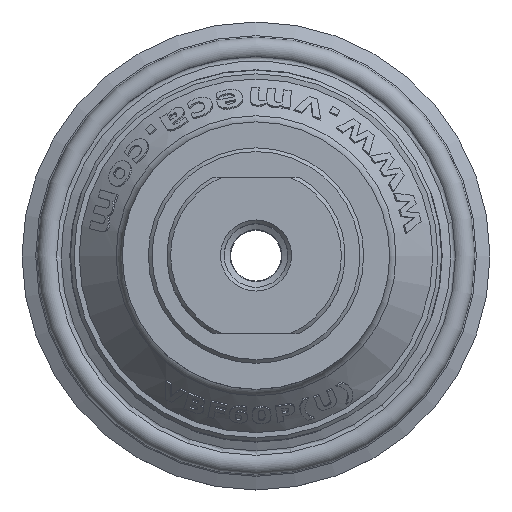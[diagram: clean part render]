
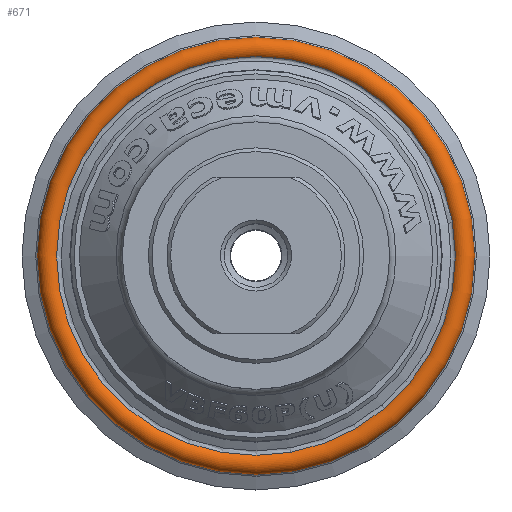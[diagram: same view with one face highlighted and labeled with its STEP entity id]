
A CAD part, top view. The second image highlights one B-rep face of the part: STEP entity #671.
In plain terms, the highlighted toroidal (fillet/blend) face has major radius 27.948 mm and minor radius 1.5 mm.
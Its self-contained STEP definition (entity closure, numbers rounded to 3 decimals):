
#671 = ADVANCED_FACE( '', ( #1523, #1524 ), #1525, .T. );
#1523 = FACE_OUTER_BOUND( '', #5915, .T. );
#1524 = FACE_OUTER_BOUND( '', #5916, .T. );
#1525 = TOROIDAL_SURFACE( '', #5917, 27.948, 1.5 );
#5915 = EDGE_LOOP( '', ( #11134 ) );
#5916 = EDGE_LOOP( '', ( #11135 ) );
#5917 = AXIS2_PLACEMENT_3D( '', #11136, #11137, #11138 );
#11134 = ORIENTED_EDGE( '', *, *, #12460, .T. );
#11135 = ORIENTED_EDGE( '', *, *, #12885, .F. );
#11136 = CARTESIAN_POINT( '', ( 0., 0., -18.984 ) );
#11137 = DIRECTION( '', ( 0., 0., 1. ) );
#11138 = DIRECTION( '', ( 1., 0., 0. ) );
#12460 = EDGE_CURVE( '', #13677, #13677, #13678, .T. );
#12885 = EDGE_CURVE( '', #14321, #14321, #14322, .T. );
#13677 = VERTEX_POINT( '', #16886 );
#13678 = CIRCLE( '', #16887, 29.407 );
#14321 = VERTEX_POINT( '', #19857 );
#14322 = CIRCLE( '', #19858, 26.842 );
#16886 = CARTESIAN_POINT( '', ( 29.407, 0., -19.335 ) );
#16887 = AXIS2_PLACEMENT_3D( '', #21932, #21933, #21934 );
#19857 = CARTESIAN_POINT( '', ( 26.842, 0., -17.971 ) );
#19858 = AXIS2_PLACEMENT_3D( '', #22075, #22076, #22077 );
#21932 = CARTESIAN_POINT( '', ( 0., 0., -19.335 ) );
#21933 = DIRECTION( '', ( 0., 0., 1. ) );
#21934 = DIRECTION( '', ( 1., 0., 0. ) );
#22075 = CARTESIAN_POINT( '', ( 0., 0., -17.971 ) );
#22076 = DIRECTION( '', ( 0., 0., 1. ) );
#22077 = DIRECTION( '', ( 1., 0., 0. ) );
